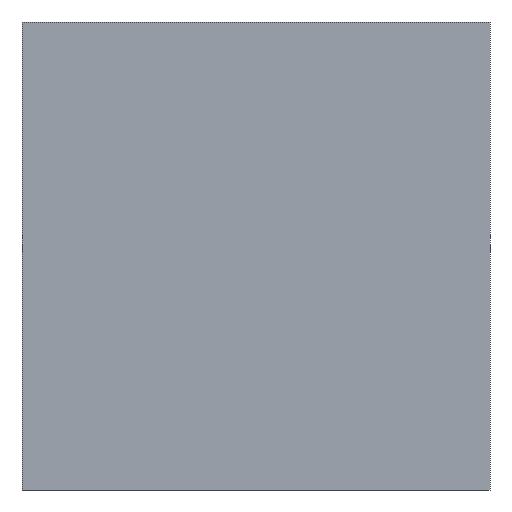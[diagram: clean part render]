
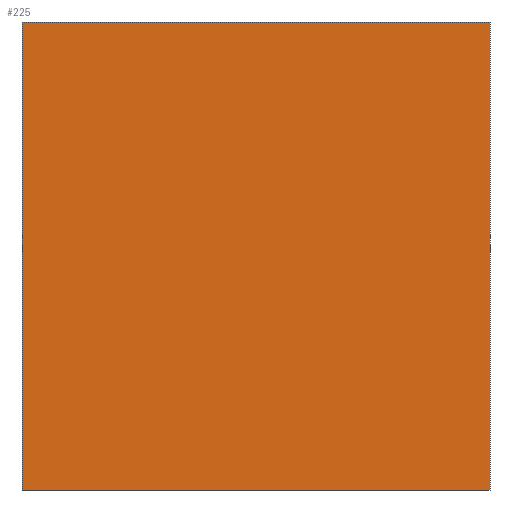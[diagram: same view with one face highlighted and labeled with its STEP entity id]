
A CAD part, left-side view. The second image highlights one B-rep face of the part: STEP entity #225.
In plain terms, the highlighted planar face has unit normal (-1, 0, 0).
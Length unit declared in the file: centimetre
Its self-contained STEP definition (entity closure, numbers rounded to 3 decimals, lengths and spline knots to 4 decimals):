
#28 = VERTEX_POINT ( 'NONE', #467 ) ;
#31 = LINE ( 'NONE', #353, #118 ) ;
#38 = VECTOR ( 'NONE', #47, 100. ) ;
#39 = CARTESIAN_POINT ( 'NONE',  ( 0., 1000., 1000. ) ) ;
#47 = DIRECTION ( 'NONE',  ( 0., 0., -1. ) ) ;
#50 = CARTESIAN_POINT ( 'NONE',  ( 0., 1000., 1000. ) ) ;
#70 = ORIENTED_EDGE ( 'NONE', *, *, #121, .T. ) ;
#99 = LINE ( 'NONE', #172, #38 ) ;
#105 = CARTESIAN_POINT ( 'NONE',  ( 0., 1000., 0. ) ) ;
#118 = VECTOR ( 'NONE', #233, 100. ) ;
#121 = EDGE_CURVE ( 'NONE', #281, #307, #31, .T. ) ;
#131 = DIRECTION ( 'NONE',  ( 0., 0., -1. ) ) ;
#172 = CARTESIAN_POINT ( 'NONE',  ( 0., 1000., 1000. ) ) ;
#190 = EDGE_CURVE ( 'NONE', #212, #281, #99, .T. ) ;
#203 = FACE_OUTER_BOUND ( 'NONE', #393, .T. ) ;
#212 = VERTEX_POINT ( 'NONE', #488 ) ;
#219 = CARTESIAN_POINT ( 'NONE',  ( 0., 0., 0. ) ) ;
#225 = ADVANCED_FACE ( 'NONE', ( #203 ), #287, .F. ) ;
#232 = ORIENTED_EDGE ( 'NONE', *, *, #426, .F. ) ;
#233 = DIRECTION ( 'NONE',  ( 0., -1., 0. ) ) ;
#255 = VECTOR ( 'NONE', #394, 100. ) ;
#258 = DIRECTION ( 'NONE',  ( 1., 0., 0. ) ) ;
#262 = CARTESIAN_POINT ( 'NONE',  ( 0., 0., 1000. ) ) ;
#272 = LINE ( 'NONE', #39, #255 ) ;
#279 = ORIENTED_EDGE ( 'NONE', *, *, #319, .F. ) ;
#281 = VERTEX_POINT ( 'NONE', #105 ) ;
#287 = PLANE ( 'NONE',  #476 ) ;
#307 = VERTEX_POINT ( 'NONE', #219 ) ;
#319 = EDGE_CURVE ( 'NONE', #28, #307, #492, .T. ) ;
#336 = ORIENTED_EDGE ( 'NONE', *, *, #190, .T. ) ;
#353 = CARTESIAN_POINT ( 'NONE',  ( 0., 1000., 0. ) ) ;
#393 = EDGE_LOOP ( 'NONE', ( #70, #279, #232, #336 ) ) ;
#394 = DIRECTION ( 'NONE',  ( 0., -1., 0. ) ) ;
#426 = EDGE_CURVE ( 'NONE', #212, #28, #272, .T. ) ;
#431 = VECTOR ( 'NONE', #462, 100. ) ;
#462 = DIRECTION ( 'NONE',  ( 0., 0., -1. ) ) ;
#467 = CARTESIAN_POINT ( 'NONE',  ( 0., 0., 1000. ) ) ;
#476 = AXIS2_PLACEMENT_3D ( 'NONE', #50, #258, #131 ) ;
#488 = CARTESIAN_POINT ( 'NONE',  ( 0., 1000., 1000. ) ) ;
#492 = LINE ( 'NONE', #262, #431 ) ;
